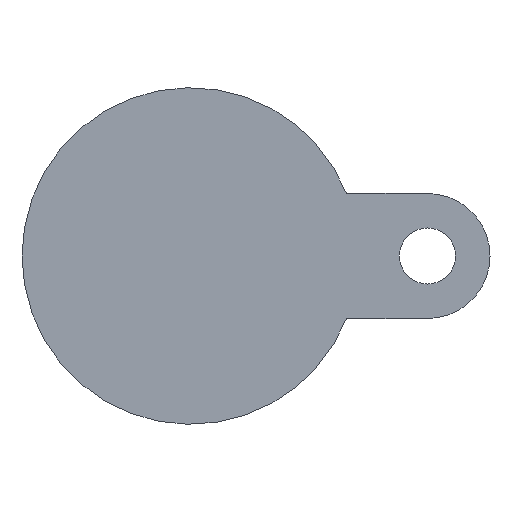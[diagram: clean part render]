
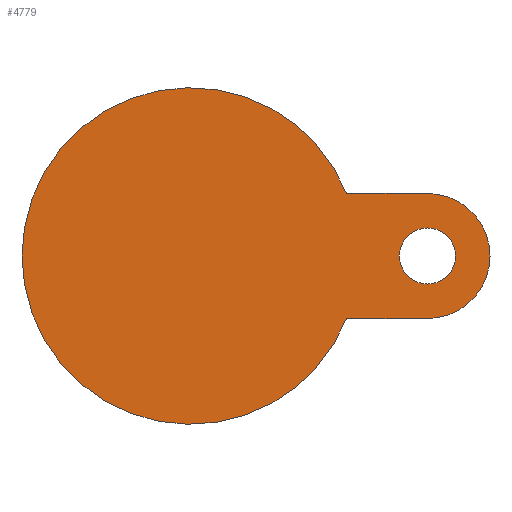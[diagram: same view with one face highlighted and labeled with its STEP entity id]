
A CAD part, front view. The second image highlights one B-rep face of the part: STEP entity #4779.
In plain terms, the highlighted planar face has unit normal (0, -1, 0).
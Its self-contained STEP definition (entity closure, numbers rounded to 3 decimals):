
#54 = CARTESIAN_POINT ( 'NONE',  ( 0., -25., 0. ) ) ;
#65 = ORIENTED_EDGE ( 'NONE', *, *, #207, .T. ) ;
#73 = CARTESIAN_POINT ( 'NONE',  ( 74., -25., -19.5 ) ) ;
#92 = DIRECTION ( 'NONE',  ( 0., -1., 0. ) ) ;
#135 = CIRCLE ( 'NONE', #665, 19.5 ) ;
#166 = VECTOR ( 'NONE', #572, 1000. ) ;
#207 = EDGE_CURVE ( 'NONE', #5505, #544, #892, .T. ) ;
#251 = CIRCLE ( 'NONE', #4273, 52.5 ) ;
#306 = EDGE_CURVE ( 'NONE', #2493, #4864, #5414, .T. ) ;
#544 = VERTEX_POINT ( 'NONE', #5025 ) ;
#545 = LINE ( 'NONE', #73, #3372 ) ;
#572 = DIRECTION ( 'NONE',  ( -1., 0., 0. ) ) ;
#665 = AXIS2_PLACEMENT_3D ( 'NONE', #1143, #1228, #3314 ) ;
#892 = LINE ( 'NONE', #3904, #166 ) ;
#1027 = DIRECTION ( 'NONE',  ( -1., 0., 0. ) ) ;
#1070 = EDGE_CURVE ( 'NONE', #2493, #4802, #545, .T. ) ;
#1101 = DIRECTION ( 'NONE',  ( 0., 1., 0. ) ) ;
#1120 = CIRCLE ( 'NONE', #4943, 19.5 ) ;
#1143 = CARTESIAN_POINT ( 'NONE',  ( 74., -25., 0. ) ) ;
#1228 = DIRECTION ( 'NONE',  ( 0., -1., 0. ) ) ;
#1373 = ORIENTED_EDGE ( 'NONE', *, *, #5315, .F. ) ;
#1804 = CARTESIAN_POINT ( 'NONE',  ( 65.25, -25., 0. ) ) ;
#1838 = ORIENTED_EDGE ( 'NONE', *, *, #1979, .F. ) ;
#1912 = AXIS2_PLACEMENT_3D ( 'NONE', #54, #4329, #5095 ) ;
#1979 = EDGE_CURVE ( 'NONE', #4864, #544, #251, .T. ) ;
#2034 = AXIS2_PLACEMENT_3D ( 'NONE', #4478, #1101, #1027 ) ;
#2227 = VERTEX_POINT ( 'NONE', #1804 ) ;
#2303 = ORIENTED_EDGE ( 'NONE', *, *, #306, .F. ) ;
#2437 = AXIS2_PLACEMENT_3D ( 'NONE', #4390, #2728, #4439 ) ;
#2493 = VERTEX_POINT ( 'NONE', #4443 ) ;
#2623 = DIRECTION ( 'NONE',  ( 1., 0., 0. ) ) ;
#2728 = DIRECTION ( 'NONE',  ( 0., -1., 0. ) ) ;
#2746 = DIRECTION ( 'NONE',  ( 0., 1., 0. ) ) ;
#3021 = CARTESIAN_POINT ( 'NONE',  ( 74., -25., 0. ) ) ;
#3089 = CARTESIAN_POINT ( 'NONE',  ( 74., -25., 19.5 ) ) ;
#3129 = ORIENTED_EDGE ( 'NONE', *, *, #3560, .T. ) ;
#3138 = CARTESIAN_POINT ( 'NONE',  ( 74., -25., 0. ) ) ;
#3314 = DIRECTION ( 'NONE',  ( 1., 0., 0. ) ) ;
#3337 = CIRCLE ( 'NONE', #2437, 8.75 ) ;
#3372 = VECTOR ( 'NONE', #3480, 1000. ) ;
#3399 = FACE_BOUND ( 'NONE', #5377, .T. ) ;
#3480 = DIRECTION ( 'NONE',  ( 1., 0., 0. ) ) ;
#3509 = VERTEX_POINT ( 'NONE', #5222 ) ;
#3560 = EDGE_CURVE ( 'NONE', #4020, #5505, #1120, .T. ) ;
#3611 = DIRECTION ( 'NONE',  ( -1., 0., 0. ) ) ;
#3743 = ORIENTED_EDGE ( 'NONE', *, *, #1070, .T. ) ;
#3851 = ORIENTED_EDGE ( 'NONE', *, *, #4542, .F. ) ;
#3880 = FACE_OUTER_BOUND ( 'NONE', #4949, .T. ) ;
#3904 = CARTESIAN_POINT ( 'NONE',  ( 42.597, -25., 19.5 ) ) ;
#4020 = VERTEX_POINT ( 'NONE', #4072 ) ;
#4072 = CARTESIAN_POINT ( 'NONE',  ( 93.5, -25., 0. ) ) ;
#4165 = EDGE_CURVE ( 'NONE', #4802, #4020, #135, .T. ) ;
#4209 = PLANE ( 'NONE',  #1912 ) ;
#4273 = AXIS2_PLACEMENT_3D ( 'NONE', #4871, #2746, #3611 ) ;
#4329 = DIRECTION ( 'NONE',  ( 0., -1., 0. ) ) ;
#4385 = CARTESIAN_POINT ( 'NONE',  ( 74., -25., -19.5 ) ) ;
#4390 = CARTESIAN_POINT ( 'NONE',  ( 74., -25., 0. ) ) ;
#4439 = DIRECTION ( 'NONE',  ( 1., 0., 0. ) ) ;
#4443 = CARTESIAN_POINT ( 'NONE',  ( 48.744, -25., -19.5 ) ) ;
#4478 = CARTESIAN_POINT ( 'NONE',  ( 0., -25., 0. ) ) ;
#4542 = EDGE_CURVE ( 'NONE', #2227, #3509, #3337, .T. ) ;
#4779 = ADVANCED_FACE ( 'NONE', ( #3880, #3399 ), #4209, .T. ) ;
#4802 = VERTEX_POINT ( 'NONE', #4385 ) ;
#4839 = DIRECTION ( 'NONE',  ( 0., -1., 0. ) ) ;
#4864 = VERTEX_POINT ( 'NONE', #5265 ) ;
#4871 = CARTESIAN_POINT ( 'NONE',  ( 0., -25., 0. ) ) ;
#4889 = CIRCLE ( 'NONE', #5154, 8.75 ) ;
#4943 = AXIS2_PLACEMENT_3D ( 'NONE', #3138, #4839, #5320 ) ;
#4949 = EDGE_LOOP ( 'NONE', ( #65, #1838, #2303, #3743, #5342, #3129 ) ) ;
#5025 = CARTESIAN_POINT ( 'NONE',  ( 48.744, -25., 19.5 ) ) ;
#5095 = DIRECTION ( 'NONE',  ( 1., 0., 0. ) ) ;
#5154 = AXIS2_PLACEMENT_3D ( 'NONE', #3021, #92, #2623 ) ;
#5222 = CARTESIAN_POINT ( 'NONE',  ( 82.75, -25., 0. ) ) ;
#5265 = CARTESIAN_POINT ( 'NONE',  ( -52.5, -25., 0. ) ) ;
#5315 = EDGE_CURVE ( 'NONE', #3509, #2227, #4889, .T. ) ;
#5320 = DIRECTION ( 'NONE',  ( 1., 0., 0. ) ) ;
#5342 = ORIENTED_EDGE ( 'NONE', *, *, #4165, .T. ) ;
#5377 = EDGE_LOOP ( 'NONE', ( #1373, #3851 ) ) ;
#5414 = CIRCLE ( 'NONE', #2034, 52.5 ) ;
#5505 = VERTEX_POINT ( 'NONE', #3089 ) ;
